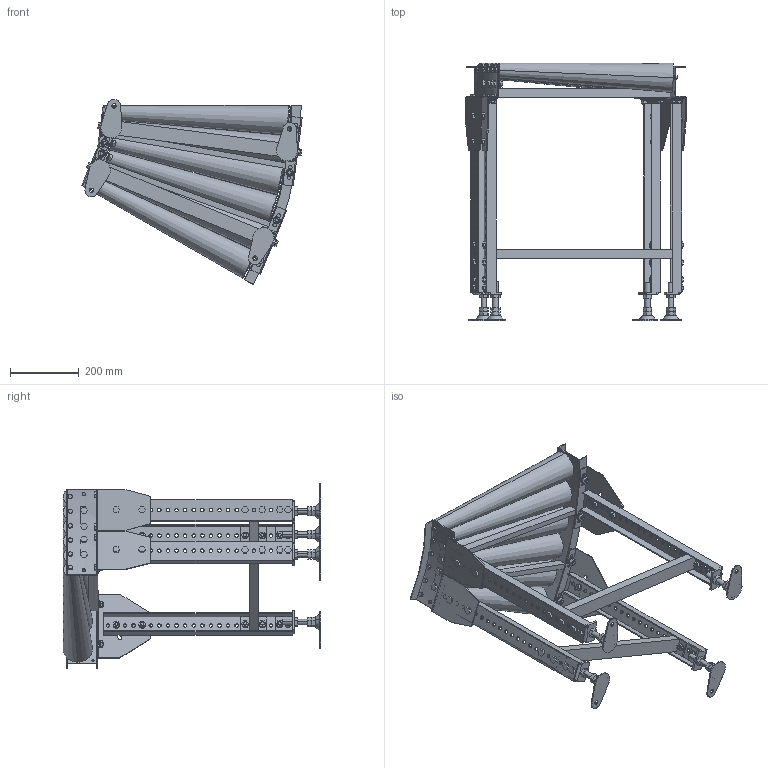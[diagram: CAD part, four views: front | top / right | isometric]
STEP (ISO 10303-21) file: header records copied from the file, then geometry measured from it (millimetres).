
FILE_DESCRIPTION (( 'STEP AP214' ), '1' );
FILE_NAME ('MRT-C5-500-50-30.STEP', '2022-09-27T09:20:30', ( '' ), ( '' ), 'SwSTEP 2.0', 'SolidWorks 2017', '' );
FILE_SCHEMA (( 'AUTOMOTIVE_DESIGN' ));
Length unit declared in the file: millimetre
Products named in the file (1): MRT-C5-500-50-30
Bounding box: 641.34 x 750 x 539.18 mm (x, y, z)
Volume: 13611375.2 mm3; surface area: 1922978.8 mm2
Topology: 19 solids, 41 shells, 1979 faces, 4730 edges, 2972 vertices
Faces by surface type: plane 1453, cylinder 506, cone 20
Entity records: 81801 total; most frequent: CARTESIAN_POINT 12570, DIRECTION 10106, ORIENTED_EDGE 9460, EDGE_CURVE 4730, AXIS2_PLACEMENT_3D 3496, VECTOR 3114, LINE 3114, VERTEX_POINT 2972
